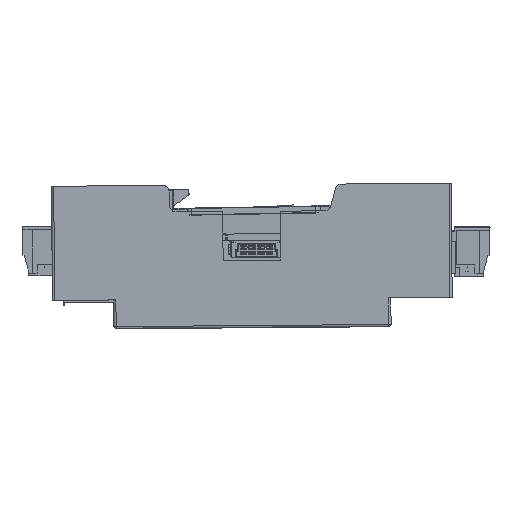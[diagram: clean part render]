
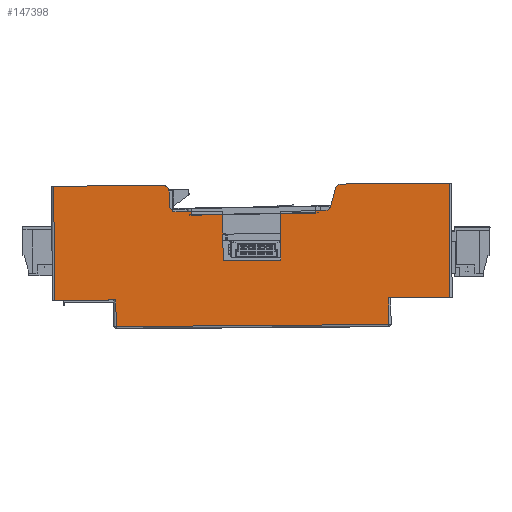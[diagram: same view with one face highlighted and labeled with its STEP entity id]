
A CAD part, left-side view. The second image highlights one B-rep face of the part: STEP entity #147398.
In plain terms, the highlighted planar face has unit normal (-1, 0, 0) as drawn and (1, 0, 0) by its records, which use the part's own axes.
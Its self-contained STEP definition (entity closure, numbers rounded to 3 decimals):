
#16662=FACE_OUTER_BOUND('',#24839,.T.);
#24839=EDGE_LOOP('',(#130213,#130214,#130215,#130216,#130217,#130218,#130219,
#130220,#130221,#130222,#130223,#130224,#130225,#130226,#130227,#130228,
#130229,#130230,#130231,#130232));
#29766=CIRCLE('',#158892,1.5);
#29767=CIRCLE('',#158893,1.5);
#29768=CIRCLE('',#158894,1.5);
#29769=CIRCLE('',#158895,1.5);
#43039=LINE('',#246929,#58465);
#43058=LINE('',#246974,#58484);
#43060=LINE('',#246978,#58486);
#43061=LINE('',#246980,#58487);
#43062=LINE('',#246983,#58488);
#43148=LINE('',#247167,#58574);
#43177=LINE('',#247238,#58603);
#43180=LINE('',#247247,#58606);
#43181=LINE('',#247249,#58607);
#43282=LINE('',#247460,#58708);
#43283=LINE('',#247463,#58709);
#43306=LINE('',#247515,#58732);
#43331=LINE('',#247579,#58757);
#43332=LINE('',#247584,#58758);
#43333=LINE('',#247586,#58759);
#43334=LINE('',#247590,#58760);
#58465=VECTOR('',#193149,10.);
#58484=VECTOR('',#193180,10.);
#58486=VECTOR('',#193184,33.409);
#58487=VECTOR('',#193187,10.);
#58488=VECTOR('',#193190,33.409);
#58574=VECTOR('',#193328,24.5);
#58603=VECTOR('',#193393,6.);
#58606=VECTOR('',#193402,13.8);
#58607=VECTOR('',#193405,25.7);
#58708=VECTOR('',#193560,25.7);
#58709=VECTOR('',#193563,13.8);
#58732=VECTOR('',#193602,24.181);
#58757=VECTOR('',#193667,61.4);
#58758=VECTOR('',#193672,3.);
#58759=VECTOR('',#193675,6.);
#58760=VECTOR('',#193678,3.91);
#72145=VERTEX_POINT('',#246926);
#72146=VERTEX_POINT('',#246928);
#72165=VERTEX_POINT('',#246970);
#72166=VERTEX_POINT('',#246972);
#72167=VERTEX_POINT('',#246976);
#72168=VERTEX_POINT('',#246982);
#72239=VERTEX_POINT('',#247164);
#72240=VERTEX_POINT('',#247166);
#72263=VERTEX_POINT('',#247233);
#72264=VERTEX_POINT('',#247237);
#72265=VERTEX_POINT('',#247241);
#72349=VERTEX_POINT('',#247456);
#72350=VERTEX_POINT('',#247458);
#72351=VERTEX_POINT('',#247462);
#72372=VERTEX_POINT('',#247513);
#72391=VERTEX_POINT('',#247577);
#72392=VERTEX_POINT('',#247581);
#72393=VERTEX_POINT('',#247583);
#72394=VERTEX_POINT('',#247587);
#72395=VERTEX_POINT('',#247589);
#91686=EDGE_CURVE('',#72146,#72145,#43039,.T.);
#91709=EDGE_CURVE('',#72165,#72166,#43058,.T.);
#91711=EDGE_CURVE('',#72166,#72167,#43060,.T.);
#91712=EDGE_CURVE('',#72145,#72165,#43061,.T.);
#91713=EDGE_CURVE('',#72168,#72146,#43062,.T.);
#91806=EDGE_CURVE('',#72239,#72240,#43148,.T.);
#91843=EDGE_CURVE('',#72263,#72264,#43177,.T.);
#91848=EDGE_CURVE('',#72264,#72265,#43180,.T.);
#91849=EDGE_CURVE('',#72265,#72239,#43181,.T.);
#91956=EDGE_CURVE('',#72350,#72349,#43282,.T.);
#91957=EDGE_CURVE('',#72349,#72351,#43283,.T.);
#91985=EDGE_CURVE('',#72372,#72350,#43306,.T.);
#92019=EDGE_CURVE('',#72391,#72263,#43331,.T.);
#92020=EDGE_CURVE('',#72167,#72392,#29766,.T.);
#92021=EDGE_CURVE('',#72392,#72393,#43332,.T.);
#92022=EDGE_CURVE('',#72393,#72240,#29767,.T.);
#92023=EDGE_CURVE('',#72351,#72391,#43333,.T.);
#92024=EDGE_CURVE('',#72372,#72394,#29768,.T.);
#92025=EDGE_CURVE('',#72394,#72395,#43334,.T.);
#92026=EDGE_CURVE('',#72395,#72168,#29769,.T.);
#130213=ORIENTED_EDGE('',*,*,#91712,.T.);
#130214=ORIENTED_EDGE('',*,*,#91709,.T.);
#130215=ORIENTED_EDGE('',*,*,#91711,.T.);
#130216=ORIENTED_EDGE('',*,*,#92020,.T.);
#130217=ORIENTED_EDGE('',*,*,#92021,.T.);
#130218=ORIENTED_EDGE('',*,*,#92022,.T.);
#130219=ORIENTED_EDGE('',*,*,#91806,.F.);
#130220=ORIENTED_EDGE('',*,*,#91849,.F.);
#130221=ORIENTED_EDGE('',*,*,#91848,.F.);
#130222=ORIENTED_EDGE('',*,*,#91843,.F.);
#130223=ORIENTED_EDGE('',*,*,#92019,.F.);
#130224=ORIENTED_EDGE('',*,*,#92023,.F.);
#130225=ORIENTED_EDGE('',*,*,#91957,.F.);
#130226=ORIENTED_EDGE('',*,*,#91956,.F.);
#130227=ORIENTED_EDGE('',*,*,#91985,.F.);
#130228=ORIENTED_EDGE('',*,*,#92024,.T.);
#130229=ORIENTED_EDGE('',*,*,#92025,.T.);
#130230=ORIENTED_EDGE('',*,*,#92026,.T.);
#130231=ORIENTED_EDGE('',*,*,#91713,.T.);
#130232=ORIENTED_EDGE('',*,*,#91686,.T.);
#140116=PLANE('',#158891);
#147398=ADVANCED_FACE('',(#16662),#140116,.T.);
#158891=AXIS2_PLACEMENT_3D('',#247580,#193668,#193669);
#158892=AXIS2_PLACEMENT_3D('',#247582,#193670,#193671);
#158893=AXIS2_PLACEMENT_3D('',#247585,#193673,#193674);
#158894=AXIS2_PLACEMENT_3D('',#247588,#193676,#193677);
#158895=AXIS2_PLACEMENT_3D('',#247591,#193679,#193680);
#193149=DIRECTION('',(0.,1.,0.));
#193180=DIRECTION('',(0.,-1.,0.));
#193184=DIRECTION('',(0.,0.,-1.));
#193187=DIRECTION('',(0.,0.,-1.));
#193190=DIRECTION('',(0.,0.,-1.));
#193328=DIRECTION('',(0.,0.,1.));
#193393=DIRECTION('',(0.,-1.,0.));
#193402=DIRECTION('',(0.,0.,-1.));
#193405=DIRECTION('',(0.,-1.,0.));
#193560=DIRECTION('',(0.,1.,0.));
#193563=DIRECTION('',(0.,0.,-1.));
#193602=DIRECTION('',(0.,0.,1.));
#193667=DIRECTION('',(0.,0.,-1.));
#193668=DIRECTION('center_axis',(1.,0.,0.));
#193669=DIRECTION('ref_axis',(0.,0.,-1.));
#193670=DIRECTION('center_axis',(-1.,0.,0.));
#193671=DIRECTION('ref_axis',(0.,1.,0.));
#193672=DIRECTION('',(0.,-1.,0.));
#193673=DIRECTION('center_axis',(1.,0.,0.));
#193674=DIRECTION('ref_axis',(0.,0.,1.));
#193675=DIRECTION('',(0.,1.,0.));
#193676=DIRECTION('center_axis',(1.,0.,0.));
#193677=DIRECTION('ref_axis',(0.,-1.,0.));
#193678=DIRECTION('',(0.,0.966,-0.259));
#193679=DIRECTION('center_axis',(-1.,0.,0.));
#193680=DIRECTION('ref_axis',(0.,0.259,0.966));
#246926=CARTESIAN_POINT('',(53.1,17.,6.5));
#246928=CARTESIAN_POINT('',(53.1,6.,6.5));
#246929=CARTESIAN_POINT('',(53.1,5.75,6.5));
#246970=CARTESIAN_POINT('',(53.1,17.,-6.5));
#246972=CARTESIAN_POINT('',(53.1,6.,-6.5));
#246974=CARTESIAN_POINT('',(53.1,5.75,-6.5));
#246976=CARTESIAN_POINT('',(53.1,6.,-17.));
#246978=CARTESIAN_POINT('',(53.1,6.,16.409));
#246980=CARTESIAN_POINT('',(53.1,17.,24.35));
#246982=CARTESIAN_POINT('',(53.1,6.,16.409));
#246983=CARTESIAN_POINT('',(53.1,6.,16.409));
#247164=CARTESIAN_POINT('',(53.1,0.,-44.5));
#247166=CARTESIAN_POINT('',(53.1,0.,-20.));
#247167=CARTESIAN_POINT('',(53.1,0.,-44.5));
#247233=CARTESIAN_POINT('',(53.1,31.7,-30.7));
#247237=CARTESIAN_POINT('',(53.1,25.7,-30.7));
#247238=CARTESIAN_POINT('',(53.1,31.7,-30.7));
#247241=CARTESIAN_POINT('',(53.1,25.7,-44.5));
#247247=CARTESIAN_POINT('',(53.1,25.7,-30.7));
#247249=CARTESIAN_POINT('',(53.1,25.7,-44.5));
#247456=CARTESIAN_POINT('',(53.1,25.7,44.5));
#247458=CARTESIAN_POINT('',(53.1,0.,44.5));
#247460=CARTESIAN_POINT('',(53.1,0.,44.5));
#247462=CARTESIAN_POINT('',(53.1,25.7,30.7));
#247463=CARTESIAN_POINT('',(53.1,25.7,44.5));
#247513=CARTESIAN_POINT('',(53.1,0.,20.319));
#247515=CARTESIAN_POINT('',(53.1,0.,20.319));
#247577=CARTESIAN_POINT('',(53.1,31.7,30.7));
#247579=CARTESIAN_POINT('',(53.1,31.7,30.7));
#247580=CARTESIAN_POINT('Origin',(53.1,0.,43.7));
#247581=CARTESIAN_POINT('',(53.1,4.5,-18.5));
#247582=CARTESIAN_POINT('Origin',(53.1,4.5,-17.));
#247583=CARTESIAN_POINT('',(53.1,1.5,-18.5));
#247584=CARTESIAN_POINT('',(53.1,4.5,-18.5));
#247585=CARTESIAN_POINT('Origin',(53.1,1.5,-20.));
#247586=CARTESIAN_POINT('',(53.1,25.7,30.7));
#247587=CARTESIAN_POINT('',(53.1,1.112,18.87));
#247588=CARTESIAN_POINT('Origin',(53.1,1.5,20.319));
#247589=CARTESIAN_POINT('',(53.1,4.888,17.858));
#247590=CARTESIAN_POINT('',(53.1,1.112,18.87));
#247591=CARTESIAN_POINT('Origin',(53.1,4.5,16.409));
